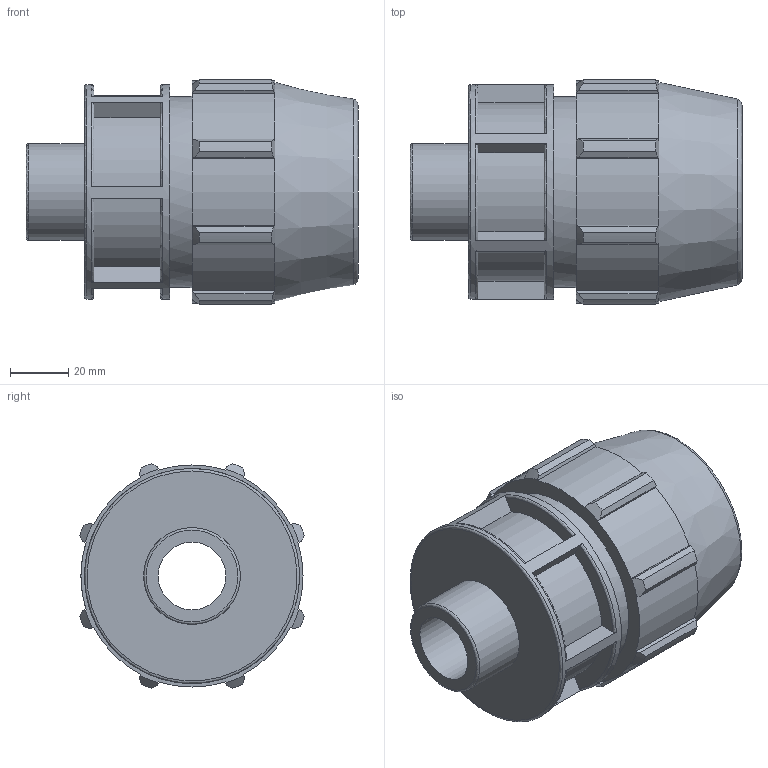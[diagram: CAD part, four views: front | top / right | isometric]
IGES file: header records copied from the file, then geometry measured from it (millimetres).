
Global section: file name: 0702M0T13010.ipt; native system: Autodesk Inventor 2019; preprocessor: unknown; author: KIM; date: 20210826.124439; units: inch
Bounding box: 114.05 x 77.2 x 77.2 mm (x, y, z)
Volume: 245292.2 mm3; surface area: 50449.3 mm2
Topology: 1 solids, 1 shells, 117 faces, 321 edges, 216 vertices
Faces by surface type: plane 63, cylinder 25, revolution 19, cone 10
Full cylindrical faces by diameter (mm): 33.249 x1, 65.634 x1, 73.838 x1
